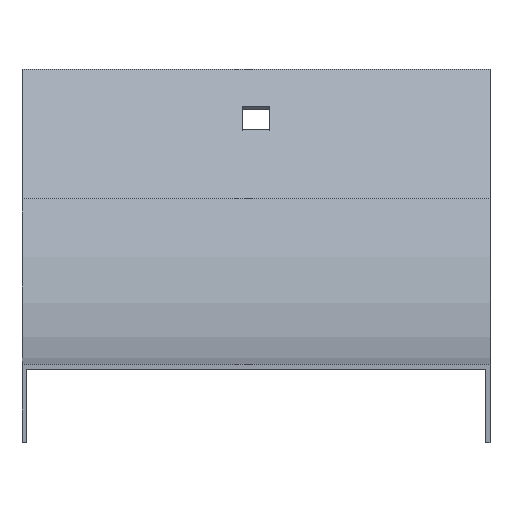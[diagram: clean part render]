
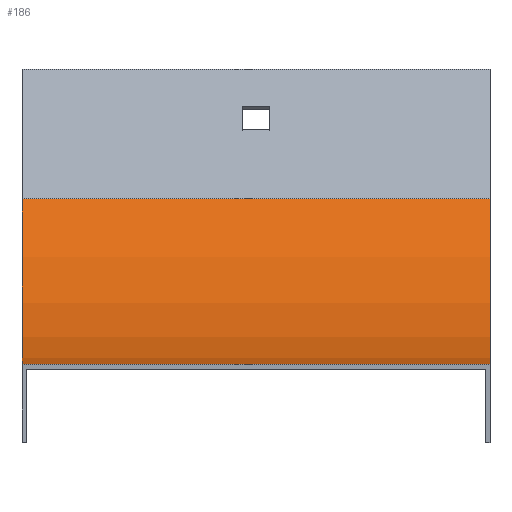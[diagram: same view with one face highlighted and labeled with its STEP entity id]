
A CAD part, top view. The second image highlights one B-rep face of the part: STEP entity #186.
In plain terms, the highlighted cylindrical face has radius 124 mm (diameter 248 mm), a partial arc.
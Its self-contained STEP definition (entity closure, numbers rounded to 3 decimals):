
#20 = DIRECTION ( 'NONE',  ( 0., 0., 1. ) ) ;
#37 = VECTOR ( 'NONE', #809, 1000. ) ;
#46 = DIRECTION ( 'NONE',  ( -1., 0., 0. ) ) ;
#70 = ORIENTED_EDGE ( 'NONE', *, *, #691, .T. ) ;
#108 = EDGE_LOOP ( 'NONE', ( #130, #613, #155, #70 ) ) ;
#117 = CARTESIAN_POINT ( 'NONE',  ( 51., 36.319, -127.681 ) ) ;
#130 = ORIENTED_EDGE ( 'NONE', *, *, #726, .T. ) ;
#139 = DIRECTION ( 'NONE',  ( -1., 0., 0. ) ) ;
#150 = EDGE_CURVE ( 'NONE', #854, #380, #187, .T. ) ;
#155 = ORIENTED_EDGE ( 'NONE', *, *, #150, .F. ) ;
#186 = ADVANCED_FACE ( 'NONE', ( #617 ), #344, .F. ) ;
#187 = CIRCLE ( 'NONE', #821, 124. ) ;
#190 = LINE ( 'NONE', #117, #847 ) ;
#268 = CARTESIAN_POINT ( 'NONE',  ( 51., 124., -40. ) ) ;
#284 = CARTESIAN_POINT ( 'NONE',  ( -51., 0., -40. ) ) ;
#342 = CARTESIAN_POINT ( 'NONE',  ( 51., 0., -40. ) ) ;
#344 = CYLINDRICAL_SURFACE ( 'NONE', #413, 124. ) ;
#380 = VERTEX_POINT ( 'NONE', #781 ) ;
#402 = VERTEX_POINT ( 'NONE', #800 ) ;
#405 = DIRECTION ( 'NONE',  ( 0., 0., -1. ) ) ;
#413 = AXIS2_PLACEMENT_3D ( 'NONE', #759, #139, #20 ) ;
#475 = EDGE_CURVE ( 'NONE', #380, #492, #737, .T. ) ;
#478 = CARTESIAN_POINT ( 'NONE',  ( -51., 124., -40. ) ) ;
#492 = VERTEX_POINT ( 'NONE', #284 ) ;
#558 = CIRCLE ( 'NONE', #808, 124. ) ;
#608 = DIRECTION ( 'NONE',  ( 0., 0., -1. ) ) ;
#613 = ORIENTED_EDGE ( 'NONE', *, *, #475, .F. ) ;
#617 = FACE_OUTER_BOUND ( 'NONE', #108, .T. ) ;
#691 = EDGE_CURVE ( 'NONE', #854, #402, #190, .T. ) ;
#726 = EDGE_CURVE ( 'NONE', #402, #492, #558, .T. ) ;
#733 = DIRECTION ( 'NONE',  ( -1., 0., 0. ) ) ;
#737 = LINE ( 'NONE', #342, #37 ) ;
#747 = DIRECTION ( 'NONE',  ( -1., 0., 0. ) ) ;
#759 = CARTESIAN_POINT ( 'NONE',  ( 51., 124., -40. ) ) ;
#767 = CARTESIAN_POINT ( 'NONE',  ( 51., 36.319, -127.681 ) ) ;
#781 = CARTESIAN_POINT ( 'NONE',  ( 51., 0., -40. ) ) ;
#800 = CARTESIAN_POINT ( 'NONE',  ( -51., 36.319, -127.681 ) ) ;
#808 = AXIS2_PLACEMENT_3D ( 'NONE', #478, #733, #608 ) ;
#809 = DIRECTION ( 'NONE',  ( -1., 0., 0. ) ) ;
#821 = AXIS2_PLACEMENT_3D ( 'NONE', #268, #747, #405 ) ;
#847 = VECTOR ( 'NONE', #46, 1000. ) ;
#854 = VERTEX_POINT ( 'NONE', #767 ) ;
